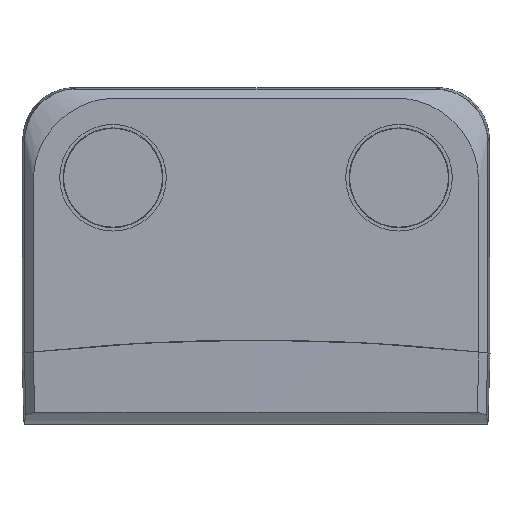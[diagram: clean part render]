
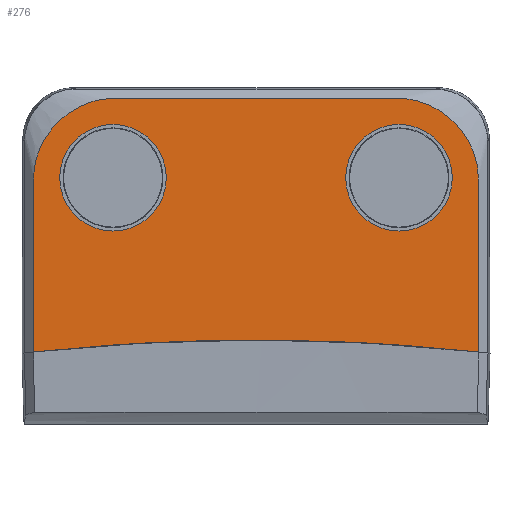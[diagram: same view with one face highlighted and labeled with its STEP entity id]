
A CAD part, top view. The second image highlights one B-rep face of the part: STEP entity #276.
In plain terms, the highlighted planar face has unit normal (0, 0, 1).
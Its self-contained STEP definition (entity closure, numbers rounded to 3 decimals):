
#150=PLANE('',#1146);
#180=FACE_BOUND('',#403,.T.);
#181=FACE_BOUND('',#404,.T.);
#182=FACE_BOUND('',#405,.T.);
#230=CIRCLE('',#1143,4.1);
#231=CIRCLE('',#1144,160.);
#232=CIRCLE('',#1145,4.1);
#276=ADVANCED_FACE('',(#180,#181,#182),#150,.T.);
#403=EDGE_LOOP('',(#522));
#404=EDGE_LOOP('',(#523,#524,#525,#526,#527,#528,#529,#530,#531,#532,#533,
#534));
#405=EDGE_LOOP('',(#535));
#522=ORIENTED_EDGE('',*,*,#914,.F.);
#523=ORIENTED_EDGE('',*,*,#915,.F.);
#524=ORIENTED_EDGE('',*,*,#916,.T.);
#525=ORIENTED_EDGE('',*,*,#917,.T.);
#526=ORIENTED_EDGE('',*,*,#918,.T.);
#527=ORIENTED_EDGE('',*,*,#919,.T.);
#528=ORIENTED_EDGE('',*,*,#920,.T.);
#529=ORIENTED_EDGE('',*,*,#921,.T.);
#530=ORIENTED_EDGE('',*,*,#922,.T.);
#531=ORIENTED_EDGE('',*,*,#923,.T.);
#532=ORIENTED_EDGE('',*,*,#924,.T.);
#533=ORIENTED_EDGE('',*,*,#925,.T.);
#534=ORIENTED_EDGE('',*,*,#926,.T.);
#535=ORIENTED_EDGE('',*,*,#927,.F.);
#800=VERTEX_POINT('',#1588);
#801=VERTEX_POINT('',#1590);
#802=VERTEX_POINT('',#1591);
#803=VERTEX_POINT('',#1596);
#804=VERTEX_POINT('',#1601);
#805=VERTEX_POINT('',#1606);
#806=VERTEX_POINT('',#1611);
#807=VERTEX_POINT('',#1616);
#808=VERTEX_POINT('',#1621);
#809=VERTEX_POINT('',#1626);
#810=VERTEX_POINT('',#1631);
#811=VERTEX_POINT('',#1636);
#812=VERTEX_POINT('',#1641);
#813=VERTEX_POINT('',#1647);
#914=EDGE_CURVE('',#800,#800,#230,.T.);
#915=EDGE_CURVE('',#801,#802,#231,.T.);
#916=EDGE_CURVE('',#801,#803,#1041,.T.);
#917=EDGE_CURVE('',#803,#804,#1042,.T.);
#918=EDGE_CURVE('',#804,#805,#1043,.T.);
#919=EDGE_CURVE('',#805,#806,#1044,.T.);
#920=EDGE_CURVE('',#806,#807,#1045,.T.);
#921=EDGE_CURVE('',#807,#808,#1046,.T.);
#922=EDGE_CURVE('',#808,#809,#1047,.T.);
#923=EDGE_CURVE('',#809,#810,#1048,.T.);
#924=EDGE_CURVE('',#810,#811,#1049,.T.);
#925=EDGE_CURVE('',#811,#812,#1050,.T.);
#926=EDGE_CURVE('',#812,#802,#1051,.T.);
#927=EDGE_CURVE('',#813,#813,#232,.T.);
#1041=B_SPLINE_CURVE_WITH_KNOTS('',3,(#1592,#1593,#1594,#1595),
 .UNSPECIFIED.,.F.,.F.,(4,4),(0.,1.),.UNSPECIFIED.);
#1042=B_SPLINE_CURVE_WITH_KNOTS('',3,(#1597,#1598,#1599,#1600),
 .UNSPECIFIED.,.F.,.F.,(4,4),(0.,1.),.UNSPECIFIED.);
#1043=B_SPLINE_CURVE_WITH_KNOTS('',3,(#1602,#1603,#1604,#1605),
 .UNSPECIFIED.,.F.,.F.,(4,4),(0.,1.),.UNSPECIFIED.);
#1044=B_SPLINE_CURVE_WITH_KNOTS('',3,(#1607,#1608,#1609,#1610),
 .UNSPECIFIED.,.F.,.F.,(4,4),(0.,1.),.UNSPECIFIED.);
#1045=B_SPLINE_CURVE_WITH_KNOTS('',3,(#1612,#1613,#1614,#1615),
 .UNSPECIFIED.,.F.,.F.,(4,4),(0.,1.),.UNSPECIFIED.);
#1046=B_SPLINE_CURVE_WITH_KNOTS('',3,(#1617,#1618,#1619,#1620),
 .UNSPECIFIED.,.F.,.F.,(4,4),(0.,1.),.UNSPECIFIED.);
#1047=B_SPLINE_CURVE_WITH_KNOTS('',3,(#1622,#1623,#1624,#1625),
 .UNSPECIFIED.,.F.,.F.,(4,4),(0.,1.),.UNSPECIFIED.);
#1048=B_SPLINE_CURVE_WITH_KNOTS('',3,(#1627,#1628,#1629,#1630),
 .UNSPECIFIED.,.F.,.F.,(4,4),(0.,1.),.UNSPECIFIED.);
#1049=B_SPLINE_CURVE_WITH_KNOTS('',3,(#1632,#1633,#1634,#1635),
 .UNSPECIFIED.,.F.,.F.,(4,4),(0.,1.),.UNSPECIFIED.);
#1050=B_SPLINE_CURVE_WITH_KNOTS('',3,(#1637,#1638,#1639,#1640),
 .UNSPECIFIED.,.F.,.F.,(4,4),(0.,1.),.UNSPECIFIED.);
#1051=B_SPLINE_CURVE_WITH_KNOTS('',3,(#1642,#1643,#1644,#1645),
 .UNSPECIFIED.,.F.,.F.,(4,4),(0.,1.),.UNSPECIFIED.);
#1143=AXIS2_PLACEMENT_3D('',#1587,#1251,#1252);
#1144=AXIS2_PLACEMENT_3D('',#1589,#1253,#1254);
#1145=AXIS2_PLACEMENT_3D('',#1646,#1255,#1256);
#1146=AXIS2_PLACEMENT_3D('',#1648,#1257,#1258);
#1251=DIRECTION('',(0.,0.,1.));
#1252=DIRECTION('',(-1.,0.,0.));
#1253=DIRECTION('',(0.,0.,1.));
#1254=DIRECTION('',(1.,0.,0.));
#1255=DIRECTION('',(0.,0.,1.));
#1256=DIRECTION('',(-1.,0.,0.));
#1257=DIRECTION('',(0.,0.,1.));
#1258=DIRECTION('',(1.,0.,0.));
#1587=CARTESIAN_POINT('',(-11.,-7.,13.));
#1588=CARTESIAN_POINT('',(-15.1,-7.,13.));
#1589=CARTESIAN_POINT('',(0.,-179.484,13.));
#1590=CARTESIAN_POINT('',(17.1,-20.401,13.));
#1591=CARTESIAN_POINT('',(-17.1,-20.401,13.));
#1592=CARTESIAN_POINT('',(17.1,-20.401,13.));
#1593=CARTESIAN_POINT('',(17.1,-16.01,13.));
#1594=CARTESIAN_POINT('',(17.1,-11.619,13.));
#1595=CARTESIAN_POINT('',(17.1,-7.228,13.));
#1596=CARTESIAN_POINT('',(17.1,-7.228,13.));
#1597=CARTESIAN_POINT('',(17.1,-7.228,13.));
#1598=CARTESIAN_POINT('',(17.1,-7.152,13.));
#1599=CARTESIAN_POINT('',(17.1,-7.076,13.));
#1600=CARTESIAN_POINT('',(17.1,-7.,13.));
#1601=CARTESIAN_POINT('',(17.1,-7.,13.));
#1602=CARTESIAN_POINT('',(17.1,-7.,13.));
#1603=CARTESIAN_POINT('',(17.1,-6.996,13.));
#1604=CARTESIAN_POINT('',(17.1,-6.991,13.));
#1605=CARTESIAN_POINT('',(17.1,-6.987,13.));
#1606=CARTESIAN_POINT('',(17.1,-6.987,13.));
#1607=CARTESIAN_POINT('',(17.1,-6.987,13.));
#1608=CARTESIAN_POINT('',(17.092,-3.785,13.));
#1609=CARTESIAN_POINT('',(14.204,-0.901,13.));
#1610=CARTESIAN_POINT('',(11.,-0.9,13.));
#1611=CARTESIAN_POINT('',(11.,-0.9,13.));
#1612=CARTESIAN_POINT('',(11.,-0.9,13.));
#1613=CARTESIAN_POINT('',(10.993,-0.9,13.));
#1614=CARTESIAN_POINT('',(10.986,-0.9,13.));
#1615=CARTESIAN_POINT('',(10.979,-0.9,13.));
#1616=CARTESIAN_POINT('',(10.979,-0.9,13.));
#1617=CARTESIAN_POINT('',(10.979,-0.9,13.));
#1618=CARTESIAN_POINT('',(3.66,-0.9,13.));
#1619=CARTESIAN_POINT('',(-3.66,-0.9,13.));
#1620=CARTESIAN_POINT('',(-10.979,-0.9,13.));
#1621=CARTESIAN_POINT('',(-10.979,-0.9,13.));
#1622=CARTESIAN_POINT('',(-10.979,-0.9,13.));
#1623=CARTESIAN_POINT('',(-10.986,-0.9,13.));
#1624=CARTESIAN_POINT('',(-10.993,-0.9,13.));
#1625=CARTESIAN_POINT('',(-11.,-0.9,13.));
#1626=CARTESIAN_POINT('',(-11.,-0.9,13.));
#1627=CARTESIAN_POINT('',(-11.,-0.9,13.));
#1628=CARTESIAN_POINT('',(-14.199,-0.901,13.));
#1629=CARTESIAN_POINT('',(-17.09,-3.779,13.));
#1630=CARTESIAN_POINT('',(-17.1,-6.981,13.));
#1631=CARTESIAN_POINT('',(-17.1,-6.981,13.));
#1632=CARTESIAN_POINT('',(-17.1,-6.981,13.));
#1633=CARTESIAN_POINT('',(-17.1,-6.987,13.));
#1634=CARTESIAN_POINT('',(-17.1,-6.994,13.));
#1635=CARTESIAN_POINT('',(-17.1,-7.,13.));
#1636=CARTESIAN_POINT('',(-17.1,-7.,13.));
#1637=CARTESIAN_POINT('',(-17.1,-7.,13.));
#1638=CARTESIAN_POINT('',(-17.1,-7.076,13.));
#1639=CARTESIAN_POINT('',(-17.1,-7.152,13.));
#1640=CARTESIAN_POINT('',(-17.1,-7.228,13.));
#1641=CARTESIAN_POINT('',(-17.1,-7.228,13.));
#1642=CARTESIAN_POINT('',(-17.1,-7.228,13.));
#1643=CARTESIAN_POINT('',(-17.1,-11.619,13.));
#1644=CARTESIAN_POINT('',(-17.1,-16.01,13.));
#1645=CARTESIAN_POINT('',(-17.1,-20.401,13.));
#1646=CARTESIAN_POINT('',(11.,-7.,13.));
#1647=CARTESIAN_POINT('',(6.9,-7.,13.));
#1648=CARTESIAN_POINT('',(0.,-179.484,13.));
